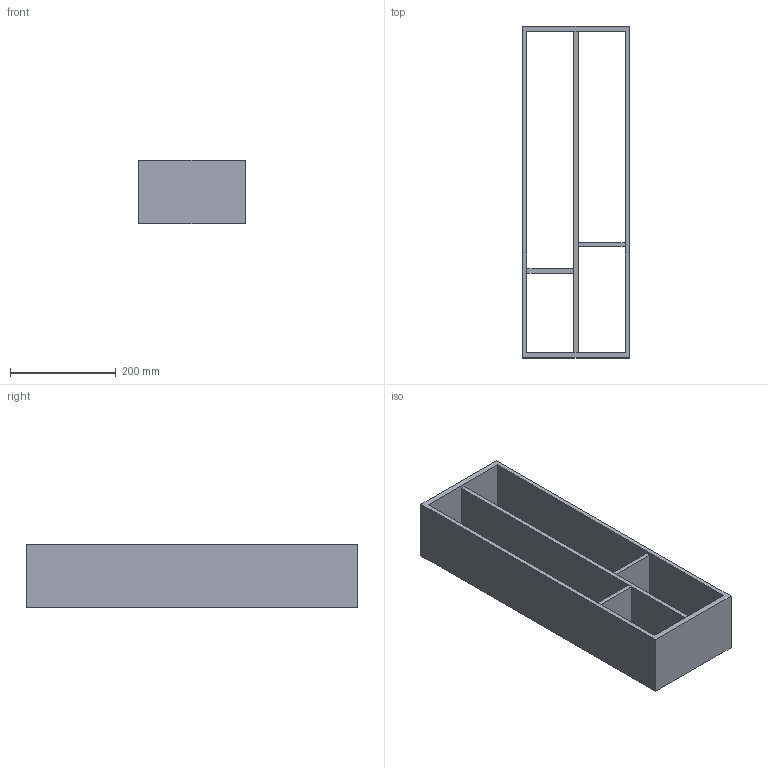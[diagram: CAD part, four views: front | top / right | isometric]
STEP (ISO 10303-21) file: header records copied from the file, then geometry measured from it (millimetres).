
FILE_DESCRIPTION (( 'STEP AP214' ), '1' );
FILE_NAME ('Vario Multi H120 NL650_B300_19 mm_Alu-Buche.step', '2010-10-08T09:47:47', ( 'grass' ), ( '' ), 'SwSTEP 2.0', 'SolidWorks 2010', '' );
FILE_SCHEMA (( 'AUTOMOTIVE_DESIGN' ));
Length unit declared in the file: millimetre
Products named in the file (1): Vario Multi H120 NL650_B300_19 mm_Alu-Buche
Bounding box: 202 x 629 x 120 mm (x, y, z)
Volume: 2414548.7 mm3; surface area: 604118.3 mm2
Topology: 1 solids, 1 shells, 22 faces, 60 edges, 40 vertices
Faces by surface type: plane 22
Entity records: 734 total; most frequent: CARTESIAN_POINT 123, ORIENTED_EDGE 120, DIRECTION 106, VECTOR 60, LINE 60, EDGE_CURVE 60, VERTEX_POINT 40, EDGE_LOOP 30
